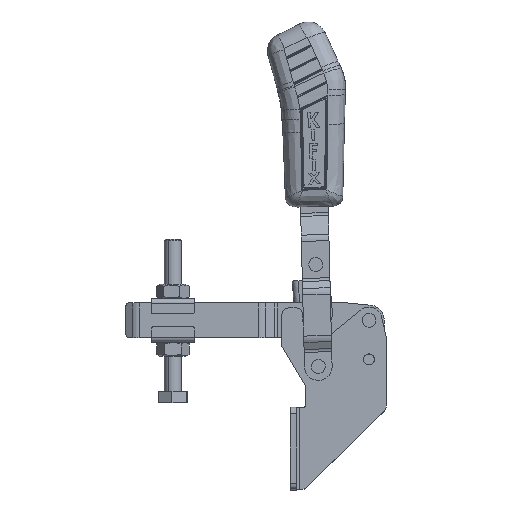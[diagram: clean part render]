
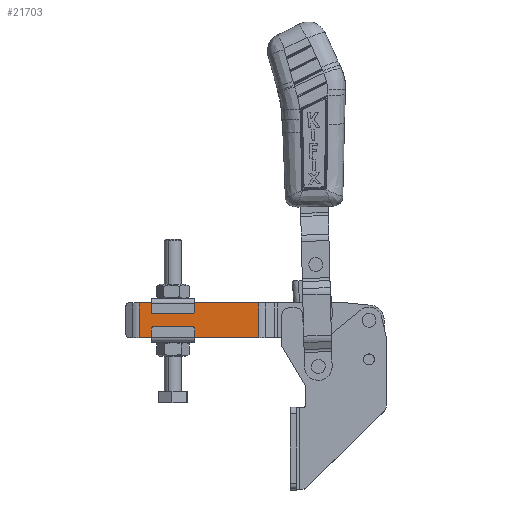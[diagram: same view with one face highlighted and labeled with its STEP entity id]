
A CAD part, top view. The second image highlights one B-rep face of the part: STEP entity #21703.
In plain terms, the highlighted planar face has unit normal (0, 0, 1) as drawn and (1, 0, 0) by its records, which use the part's own axes.
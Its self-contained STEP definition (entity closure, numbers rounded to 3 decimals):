
#46 = VERTEX_POINT ( 'NONE', #11907 ) ;
#1119 = EDGE_CURVE ( 'NONE', #12564, #22237, #1477, .T. ) ;
#1404 = DIRECTION ( 'NONE',  ( 0., -1., 0. ) ) ;
#1477 = LINE ( 'NONE', #11054, #6145 ) ;
#1933 = VECTOR ( 'NONE', #1404, 1000. ) ;
#2002 = VECTOR ( 'NONE', #15618, 1000. ) ;
#2540 = AXIS2_PLACEMENT_3D ( 'NONE', #15457, #3539, #17475 ) ;
#3207 = CARTESIAN_POINT ( 'NONE',  ( 5.656, 59.539, 8. ) ) ;
#3539 = DIRECTION ( 'NONE',  ( 1., 0., 0. ) ) ;
#6145 = VECTOR ( 'NONE', #9042, 1000. ) ;
#7349 = LINE ( 'NONE', #23564, #2002 ) ;
#9042 = DIRECTION ( 'NONE',  ( 0., 0., -1. ) ) ;
#9612 = ORIENTED_EDGE ( 'NONE', *, *, #9726, .T. ) ;
#9726 = EDGE_CURVE ( 'NONE', #22569, #46, #7349, .T. ) ;
#11054 = CARTESIAN_POINT ( 'NONE',  ( 5.656, 59.539, 8. ) ) ;
#11673 = EDGE_CURVE ( 'NONE', #22237, #46, #23175, .T. ) ;
#11907 = CARTESIAN_POINT ( 'NONE',  ( 5.656, 4.423, -8. ) ) ;
#12490 = LINE ( 'NONE', #25047, #22444 ) ;
#12564 = VERTEX_POINT ( 'NONE', #3207 ) ;
#13110 = EDGE_LOOP ( 'NONE', ( #16058, #17484, #22659, #9612 ) ) ;
#13143 = DIRECTION ( 'NONE',  ( 0., -1., 0. ) ) ;
#13395 = CARTESIAN_POINT ( 'NONE',  ( 5.656, 60.2, -8. ) ) ;
#15173 = EDGE_CURVE ( 'NONE', #12564, #22569, #12490, .T. ) ;
#15457 = CARTESIAN_POINT ( 'NONE',  ( 5.656, 60.2, 8. ) ) ;
#15618 = DIRECTION ( 'NONE',  ( 0., 0., -1. ) ) ;
#15686 = CARTESIAN_POINT ( 'NONE',  ( 5.656, 59.539, -8. ) ) ;
#16058 = ORIENTED_EDGE ( 'NONE', *, *, #11673, .F. ) ;
#17432 = FACE_OUTER_BOUND ( 'NONE', #13110, .T. ) ;
#17475 = DIRECTION ( 'NONE',  ( 0., 1., 0. ) ) ;
#17484 = ORIENTED_EDGE ( 'NONE', *, *, #1119, .F. ) ;
#18178 = CARTESIAN_POINT ( 'NONE',  ( 5.656, 4.423, 8. ) ) ;
#21703 = ADVANCED_FACE ( 'NONE', ( #17432 ), #23406, .T. ) ;
#22237 = VERTEX_POINT ( 'NONE', #15686 ) ;
#22444 = VECTOR ( 'NONE', #13143, 1000. ) ;
#22569 = VERTEX_POINT ( 'NONE', #18178 ) ;
#22659 = ORIENTED_EDGE ( 'NONE', *, *, #15173, .T. ) ;
#23175 = LINE ( 'NONE', #13395, #1933 ) ;
#23406 = PLANE ( 'NONE',  #2540 ) ;
#23564 = CARTESIAN_POINT ( 'NONE',  ( 5.656, 4.423, 8. ) ) ;
#25047 = CARTESIAN_POINT ( 'NONE',  ( 5.656, 60.2, 8. ) ) ;
